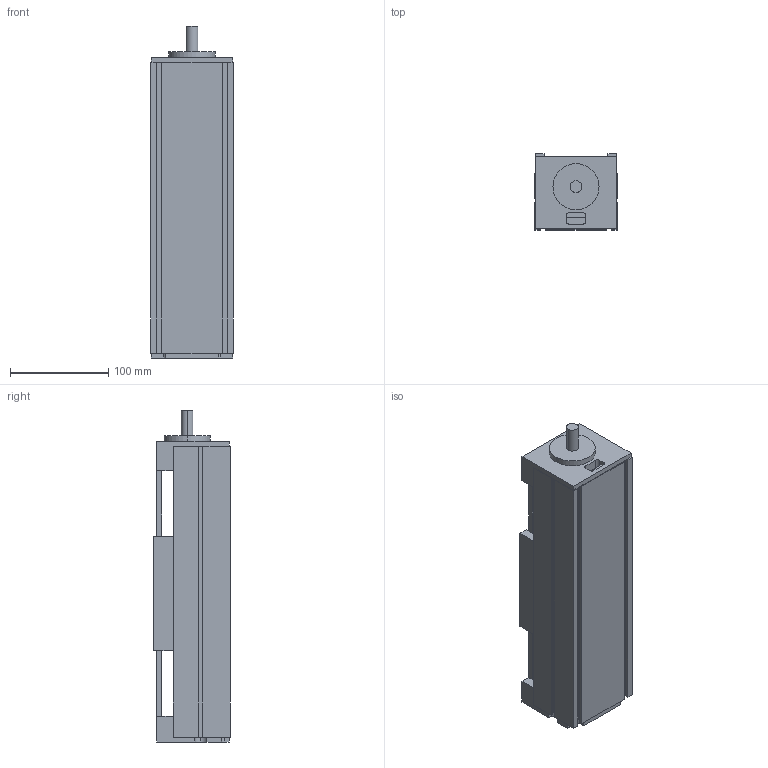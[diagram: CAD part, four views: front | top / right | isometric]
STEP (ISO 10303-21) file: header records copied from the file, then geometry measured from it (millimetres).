
FILE_DESCRIPTION (( 'STEP AP203' ), '1' );
FILE_NAME ('MSX84C-100-LL2020-P7标准面板.STEP', '2013-11-02T03:18:36', ( '微软用户' ), ( '微软中国' ), 'SwSTEP 2.0', 'SolidWorks 2010', '' );
FILE_SCHEMA (( 'CONFIG_CONTROL_DESIGN' ));
Length unit declared in the file: millimetre
Products named in the file (1): MSX84C-100-LL2020-P7梓袧醱啣
Bounding box: 84 x 78 x 338 mm (x, y, z)
Volume: 1117456.8 mm3; surface area: 267386.6 mm2
Topology: 3 solids, 3 shells, 176 faces, 489 edges, 306 vertices
Faces by surface type: plane 128, cylinder 32, cone 16
Entity records: 5506 total; most frequent: CARTESIAN_POINT 956, ORIENTED_EDGE 946, DIRECTION 891, EDGE_CURVE 473, LINE 409, VECTOR 409, VERTEX_POINT 306, AXIS2_PLACEMENT_3D 241
